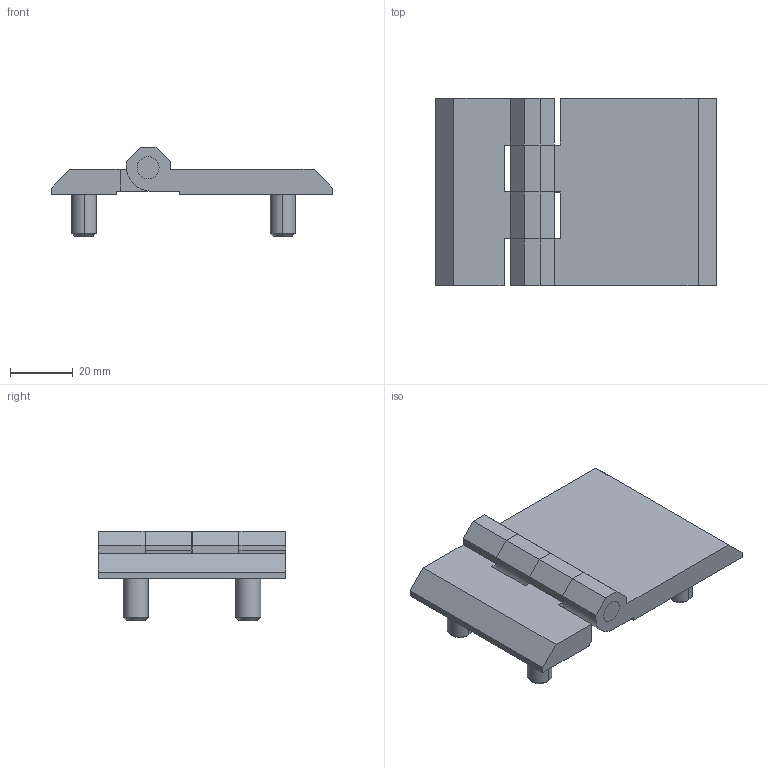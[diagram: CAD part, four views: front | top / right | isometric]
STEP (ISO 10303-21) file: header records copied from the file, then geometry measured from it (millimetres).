
FILE_DESCRIPTION (( 'STEP AP214' ), '1' );
FILE_NAME ('3.512.STEP', '2012-01-27T11:52:16', ( 'Techniczny' ), ( 'RST Roztocze' ), 'SwSTEP 2.0', 'SolidWorks 2010', '' );
FILE_SCHEMA (( 'AUTOMOTIVE_DESIGN' ));
Length unit declared in the file: millimetre
Products named in the file (4): sworzen; 350-p; 3.512; 350-l
Assembly tree (3 placements, depth 2):
  3.512
    sworzen
    350-l
    350-p
Bounding box: 90 x 60 x 28.5 mm (x, y, z)
Volume: 41858.7 mm3; surface area: 20057.9 mm2
Topology: 3 solids, 3 shells, 163 faces, 412 edges, 272 vertices
Faces by surface type: plane 107, cylinder 44, cone 8, bspline 4
Entity records: 5192 total; most frequent: CARTESIAN_POINT 905, DIRECTION 830, ORIENTED_EDGE 824, EDGE_CURVE 412, LINE 308, VECTOR 308, VERTEX_POINT 272, AXIS2_PLACEMENT_3D 261
